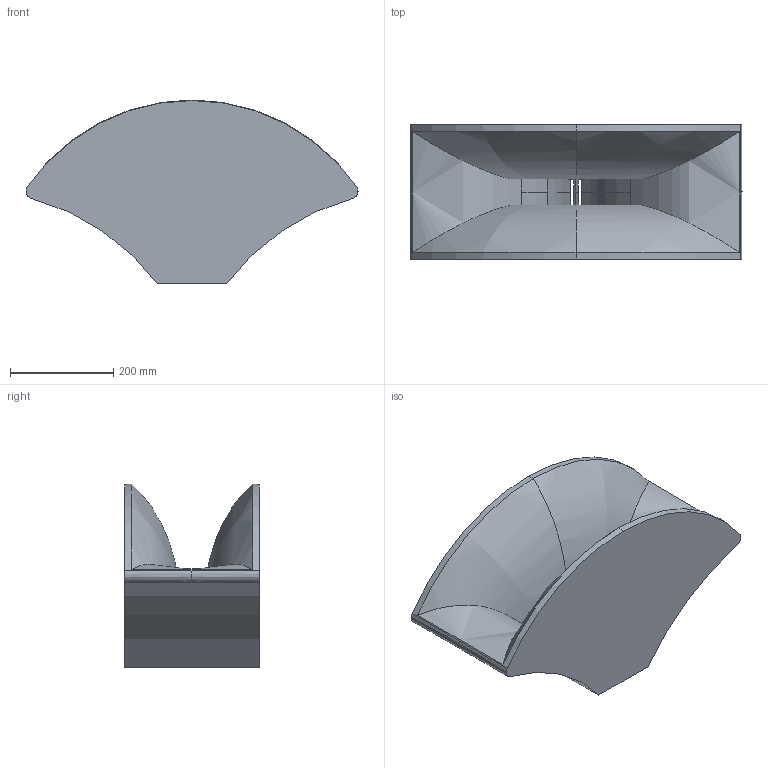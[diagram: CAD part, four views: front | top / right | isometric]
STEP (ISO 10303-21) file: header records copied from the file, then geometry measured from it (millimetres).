
FILE_DESCRIPTION(/* description */ (''),/* implementation_level */ '2;1');
FILE_NAME(/* name */ 'mk3b2_Horn_CAD_mk2.step',/* time_stamp */ '2024-10-22T09:33:42+02:00',/* author */ (''),/* organization */ (''),/* preprocessor_version */ 'ST-DEVELOPER v20',/* originating_system */ 'Autodesk Translation Framework v13.20.0.188',/* authorisation */ '');
FILE_SCHEMA (('AUTOMOTIVE_DESIGN { 1 0 10303 214 3 1 1 }'));
Length unit declared in the file: millimetre
Products named in the file (1): Radialhorn1-4
Bounding box: 641.94 x 260 x 355.75 mm (x, y, z)
Volume: 24681434.2 mm3; surface area: 901489.4 mm2
Topology: 1 solids, 1 shells, 39 faces, 102 edges, 62 vertices
Faces by surface type: bspline 34, plane 3, cylinder 2
Entity records: 31362 total; most frequent: CARTESIAN_POINT 30564, ORIENTED_EDGE 204, EDGE_CURVE 102, DIRECTION 64, VERTEX_POINT 62, B_SPLINE_CURVE_WITH_KNOTS 58, EDGE_LOOP 48, FACE_OUTER_BOUND 39
